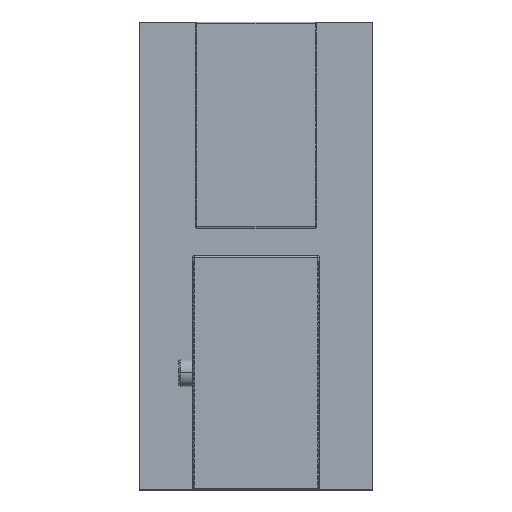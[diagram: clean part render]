
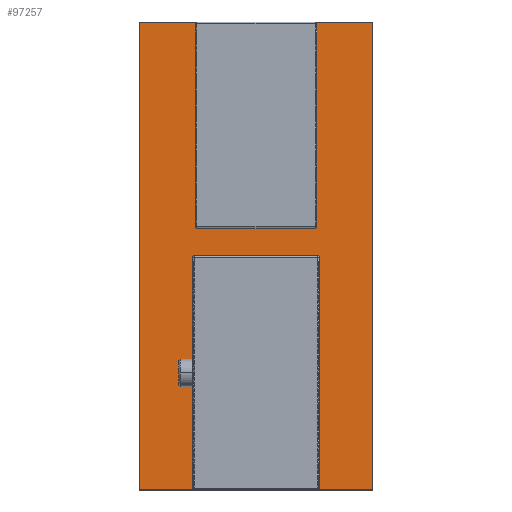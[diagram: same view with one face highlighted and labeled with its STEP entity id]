
A CAD part, top view. The second image highlights one B-rep face of the part: STEP entity #97257.
In plain terms, the highlighted planar face has unit normal (0, 0, 1).
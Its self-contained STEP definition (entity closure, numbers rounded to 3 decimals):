
#97125=CARTESIAN_POINT('',(42.5,127.5,8.0));
#97126=VERTEX_POINT('',#97125);
#97133=CARTESIAN_POINT('',(42.5,-42.5,8.0));
#97134=VERTEX_POINT('',#97133);
#97135=CARTESIAN_POINT('',(42.5,-42.5,8.0));
#97136=DIRECTION('',(0.0,1.0,0.0));
#97137=VECTOR('',#97136,170.0);
#97138=LINE('',#97135,#97137);
#97139=EDGE_CURVE('',#97134,#97126,#97138,.T.);
#97163=CARTESIAN_POINT('',(-42.5,127.5,8.0));
#97164=VERTEX_POINT('',#97163);
#97171=CARTESIAN_POINT('',(42.5,127.5,8.0));
#97172=DIRECTION('',(-1.0,0.0,0.0));
#97173=VECTOR('',#97172,85.0);
#97174=LINE('',#97171,#97173);
#97175=EDGE_CURVE('',#97126,#97164,#97174,.T.);
#97194=CARTESIAN_POINT('',(-42.5,-42.5,8.0));
#97195=VERTEX_POINT('',#97194);
#97202=CARTESIAN_POINT('',(-42.5,127.5,8.0));
#97203=DIRECTION('',(0.0,-1.0,0.0));
#97204=VECTOR('',#97203,170.0);
#97205=LINE('',#97202,#97204);
#97206=EDGE_CURVE('',#97164,#97195,#97205,.T.);
#97224=CARTESIAN_POINT('',(-42.5,-42.5,8.0));
#97225=DIRECTION('',(1.0,0.0,0.0));
#97226=VECTOR('',#97225,85.0);
#97227=LINE('',#97224,#97226);
#97228=EDGE_CURVE('',#97195,#97134,#97227,.T.);
#97246=CARTESIAN_POINT('',(-51.001,-59.501,8.0));
#97247=DIRECTION('',(0.0,0.0,1.0));
#97248=DIRECTION('',(1.0,0.0,0.0));
#97249=AXIS2_PLACEMENT_3D('',#97246,#97247,#97248);
#97250=PLANE('',#97249);
#97251=ORIENTED_EDGE('',*,*,#97139,.T.);
#97252=ORIENTED_EDGE('',*,*,#97175,.T.);
#97253=ORIENTED_EDGE('',*,*,#97206,.T.);
#97254=ORIENTED_EDGE('',*,*,#97228,.T.);
#97255=EDGE_LOOP('',(#97251,#97252,#97253,#97254));
#97256=FACE_OUTER_BOUND('',#97255,.T.);
#97257=ADVANCED_FACE('',(#97256),#97250,.T.);
